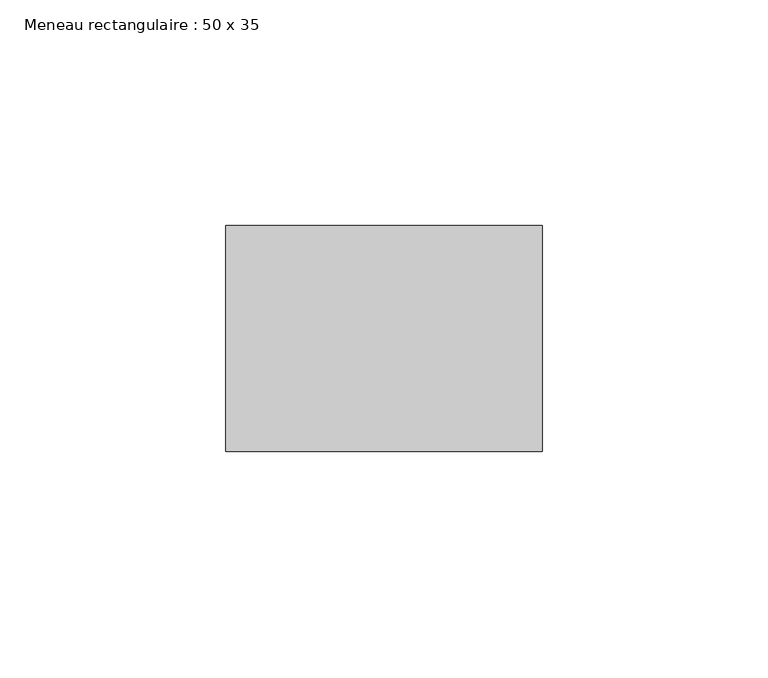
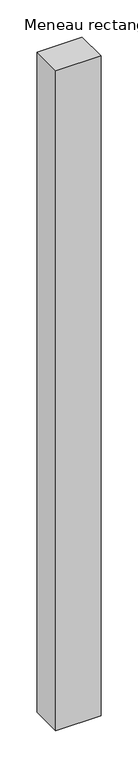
"""IFC4 building model written with IfcOpenShell, lengths in millimetres: member geometry, Meneau rectangulaire : 50 x 35."""

from ifc_helpers import new_model, si_unit, frame, origin, place, context, project, spatial, polyline, outline, extrude, source, transform, mapped, element, save


def meneau_rectangulaire_50_x_35_115d9c48(model_context):
    return source(origin(), model_context, "Body", "SweptSolid", [
        extrude(outline(polyline([(0.0, 0.0), (0.0, -50.0), (-70.0, -50.0), (-70.0, 0.0), (0.0, 0.0)])), frame((0.0, 0.0, -1081.125742), z_axis=(0.0, 0.0, 1.0), x_axis=(1.0, 0.0, 0.0)), (0.0, 0.0, 1.0), 1081.125742),
    ])


if __name__ == "__main__":
    model = new_model("IFC4")
    model_context = context("Model", 3, world=origin())
    ifc_project = project(units=[si_unit("LENGTHUNIT", "METRE", prefix="MILLI")], contexts=[model_context])
    site = spatial("IfcSite", under=ifc_project)
    building = spatial("IfcBuilding", under=site)
    placement = place(None, origin())
    meneau_rectangulaire_50_x_35_shape = meneau_rectangulaire_50_x_35_115d9c48(model_context)
    element("IfcMember", 1, ObjectType="Meneau rectangulaire : 50 x 35", at=placement, inside=building, context=model_context, shape_type="MappedRepresentation", body=[
        mapped(meneau_rectangulaire_50_x_35_shape, transform((0.0, 0.0, 0.0), x_axis=(1.0, 0.0, 0.0), y_axis=(0.0, 1.0, 0.0), z_axis=(0.0, 0.0, 1.0))),
    ])
    save(model, "model.ifc")
